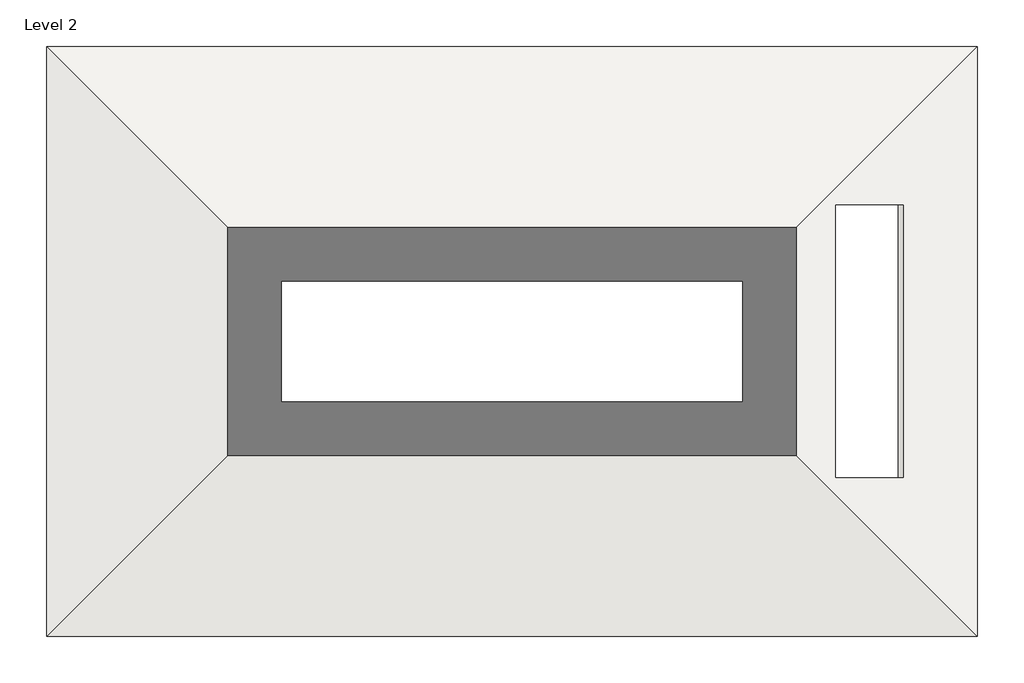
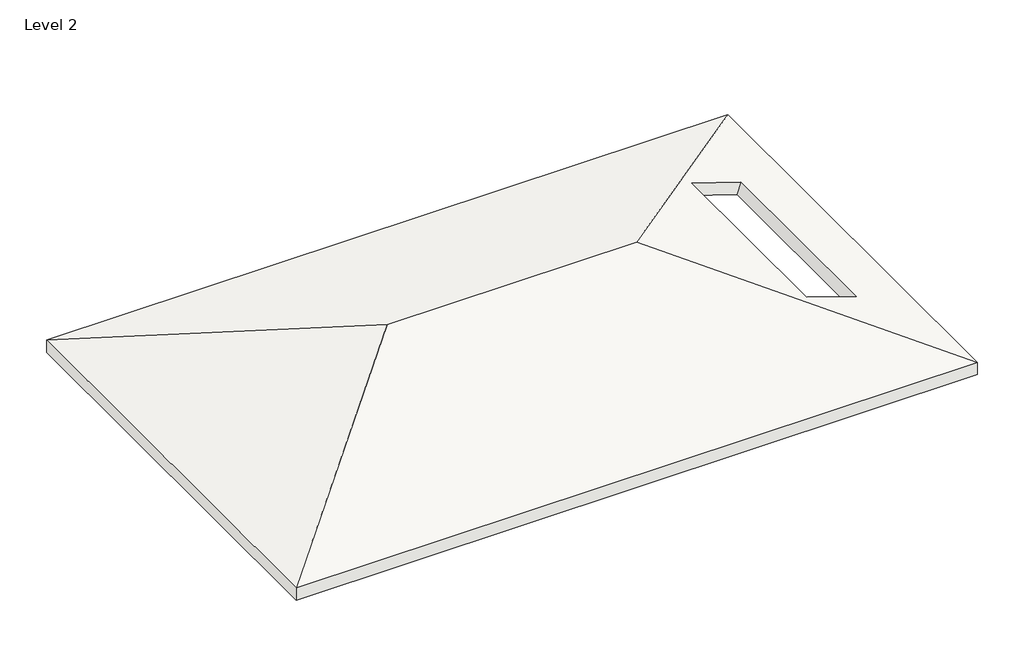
# One storey: 1 roof.
"""IFC4 building model written with IfcOpenShell, lengths in millimetres."""

from ifc_helpers import new_model, si_unit, origin, place, context, project, spatial, faceted_brep, element, save

model = new_model("IFC4")

# Units and contexts
model_context = context("Model", 3, world=origin())
ifc_project = project(units=[si_unit("LENGTHUNIT", "METRE", prefix="MILLI")], contexts=[model_context])

# Site, building, storey
site = spatial("IfcSite", under=ifc_project)
building = spatial("IfcBuilding", under=site)
storey = spatial("IfcBuildingStorey", under=building, Name="Level 2", Elevation=3048.0)

# Roof
placement = place(None, origin())
element("IfcRoof", 1, ObjectType="Generic - 12\"", at=placement, inside=storey, context=model_context, shape_type="Brep", body=[
    faceted_brep([(2928.66091, 4741.7412302, 4605.8666667), (8211.86091, 10024.9412302, 2844.8), (8211.86091, -541.4587698, 2844.8), (6790.6321343, 7180.1412302, 3318.5429252), (5582.6890891, 7180.1412302, 3721.190607), (5582.6890891, 2303.3412302, 3721.190607), (6790.6321343, 2303.3412302, 3318.5429252), (-8450.53909, 10024.9412302, 2844.8), (-3167.33909, 4741.7412302, 4605.8666667), (-8450.53909, -541.4587698, 2844.8), (8211.86091, 10024.9412302, 3166.0874103), (2928.66091, 4741.7412302, 4927.1540769), (8211.86091, -541.4587698, 3166.0874103), (5679.0753122, 7180.1412302, 4010.3492762), (6887.0183574, 7180.1412302, 3607.7015945), (6887.0183574, 2303.3412302, 3607.7015945), (5679.0753122, 2303.3412302, 4010.3492762), (-8450.53909, 10024.9412302, 3166.0874103), (-8450.53909, -541.4587698, 3166.0874103), (-3167.33909, 4741.7412302, 4927.1540769)], [[[0, 1, 2], [3, 4, 5, 6]], [[7, 8, 9]], [[1, 0, 8, 7]], [[0, 2, 9, 8]], [[10, 11, 12], [13, 14, 15, 16]], [[17, 18, 19]], [[11, 10, 17, 19]], [[12, 11, 19, 18]], [[17, 10, 1, 7]], [[18, 17, 7, 9]], [[12, 18, 9, 2]], [[10, 12, 2, 1]], [[13, 4, 3, 14]], [[14, 3, 6, 15]], [[15, 6, 5, 16]], [[4, 13, 16, 5]]]),
])

save(model, "model.ifc")
